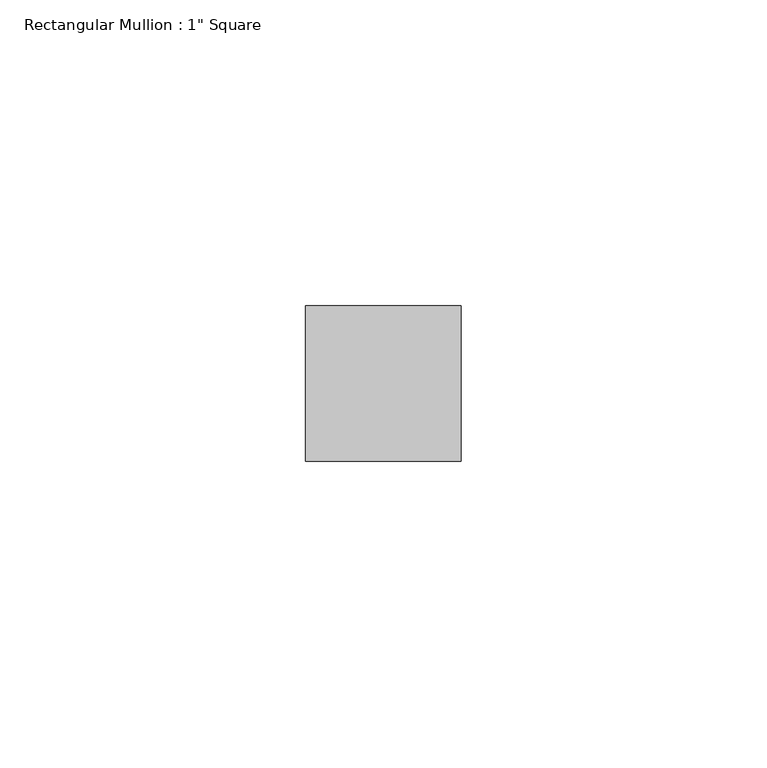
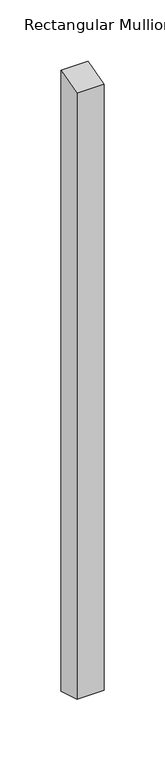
"""IFC4 building model written with IfcOpenShell, lengths in millimetres: member geometry."""

from ifc_helpers import new_model, si_unit, origin, place, context, project, spatial, faceted_brep, source, transform, mapped, element, save


def member_03fc4885(model_context):
    return source(origin(), model_context, "Body", "Brep", [
        faceted_brep([(-25.4, 12.7, 3.6834751), (0.0, 12.7, 3.7084193), (0.0, 12.7, -613.3084193), (-25.4, 12.7, -613.2834751), (-25.4, -12.7, -3.7333635), (-25.4, -12.7, -605.8666365), (0.0, -12.7, -3.7084193), (0.0, -12.7, -605.8915807)], [[[0, 1, 2, 3]], [[4, 0, 3, 5]], [[6, 4, 5, 7]], [[1, 6, 7, 2]], [[1, 0, 4, 6]], [[2, 7, 5, 3]]]),
    ])


if __name__ == "__main__":
    model = new_model("IFC4")
    model_context = context("Model", 3, world=origin())
    ifc_project = project(units=[si_unit("LENGTHUNIT", "METRE", prefix="MILLI")], contexts=[model_context])
    site = spatial("IfcSite", under=ifc_project)
    building = spatial("IfcBuilding", under=site)
    placement = place(None, origin())
    member_shape = member_03fc4885(model_context)
    element("IfcMember", 1, ObjectType="Rectangular Mullion : 1\" Square", at=placement, inside=building, context=model_context, shape_type="MappedRepresentation", body=[
        mapped(member_shape, transform((0.0, 0.0, 0.0), x_axis=(1.0, 0.0, 0.0), y_axis=(0.0, 1.0, 0.0), z_axis=(0.0, 0.0, 1.0))),
    ])
    save(model, "model.ifc")
